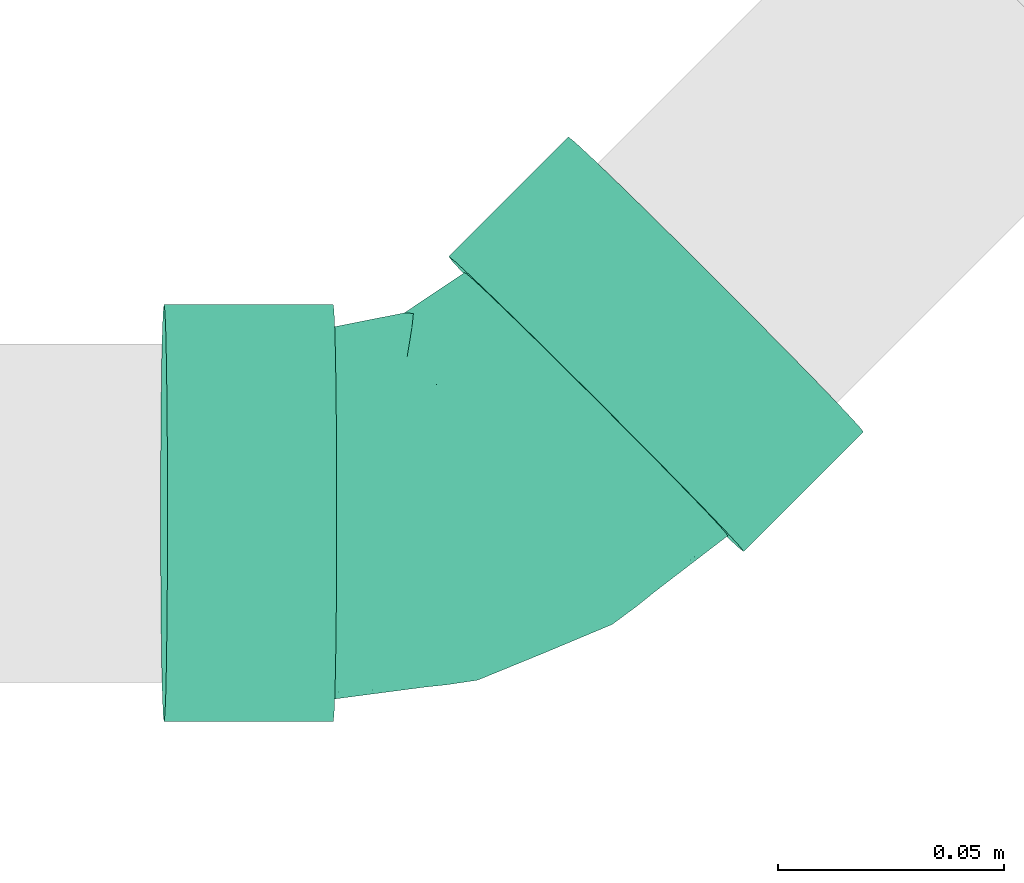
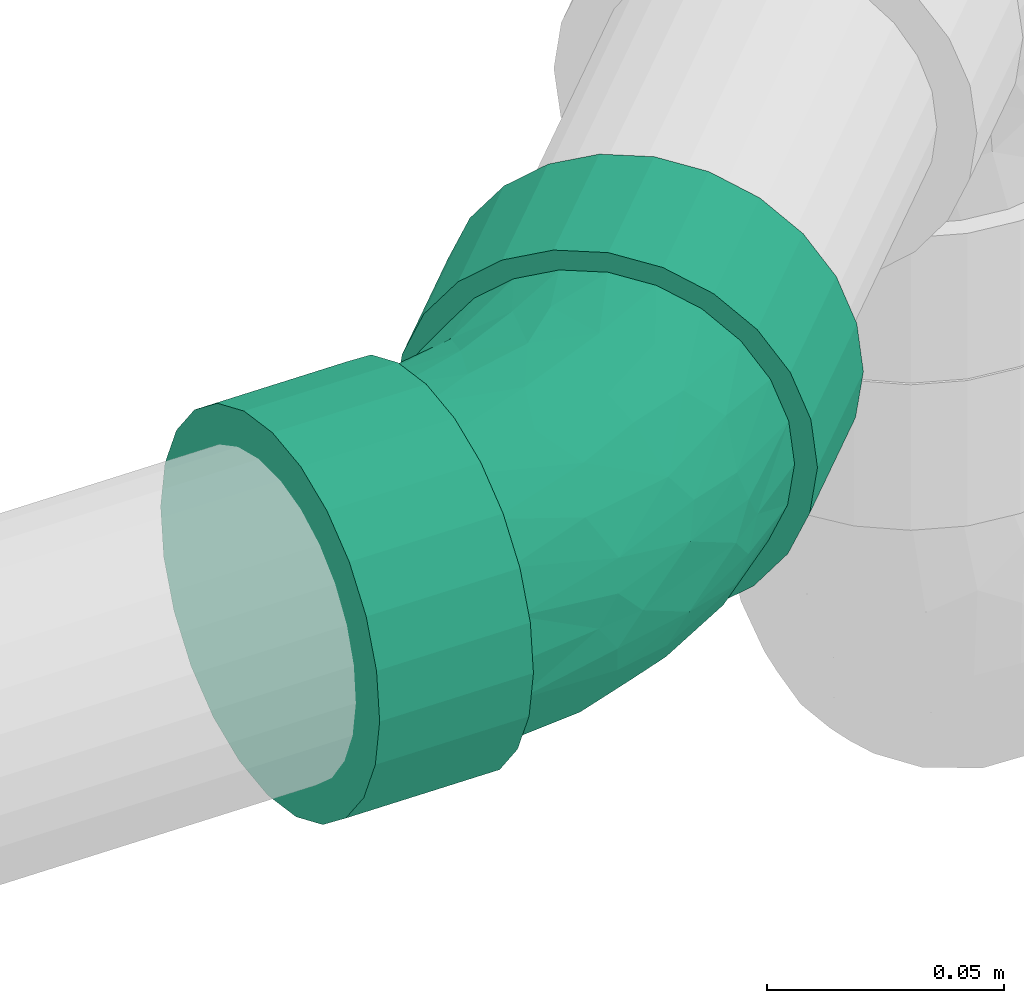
# One storey, part 55 of 83: 1 flow fitting.
"""IFC2X3 building model written with IfcOpenShell, lengths in millimetres."""

from ifc_helpers import new_model, entity, si_unit, converted_unit, derived_unit, direction, frame, origin_with_axes, place, context, subcontext, project, spatial, open_shell, surface_model, source, transform, mapped, type_object, element, save


model = new_model("IFC2X3")

# Units and contexts
model_context = context("Model", 3, precision=0.01, world=frame((0.0, 4.29681676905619e-09, 0.0)), true_north=direction((4.01073788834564e-13, 1.0)))
plan_context = context("Plan", 3, precision=0.01, world=frame((0.0, 4.29681676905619e-09, 0.0)), true_north=direction((4.01073788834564e-13, 1.0)))
body_context = subcontext(model_context, "Body", "Model", "MODEL_VIEW")
ifc_project = project(units=[converted_unit("PLANEANGLEUNIT", "DEGREE", entity("IfcPositiveLengthMeasure", 0.0174532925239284), si_unit("PLANEANGLEUNIT", "RADIAN"), dimensions=[0, 0, 0, 0, 0, 0, 0]), si_unit("AREAUNIT", "SQUARE_METRE"), si_unit("LENGTHUNIT", "METRE", prefix="MILLI"), si_unit("MASSUNIT", "GRAM", prefix="KILO"), si_unit("POWERUNIT", "WATT"), si_unit("PRESSUREUNIT", "PASCAL"), si_unit("FORCEUNIT", "NEWTON", prefix="KILO"), si_unit("ELECTRICVOLTAGEUNIT", "VOLT"), si_unit("ELECTRICCURRENTUNIT", "AMPERE"), si_unit("THERMODYNAMICTEMPERATUREUNIT", "DEGREE_CELSIUS"), si_unit("TIMEUNIT", "SECOND"), si_unit("VOLUMEUNIT", "CUBIC_METRE"), derived_unit("LINEARVELOCITYUNIT", [(si_unit("LENGTHUNIT", "METRE"), 1), (si_unit("TIMEUNIT", "SECOND"), -1)]), derived_unit("VOLUMETRICFLOWRATEUNIT", [(si_unit("VOLUMEUNIT", "CUBIC_METRE"), 1), (si_unit("TIMEUNIT", "SECOND"), -1)]), derived_unit("THERMALTRANSMITTANCEUNIT", [(si_unit("POWERUNIT", "WATT"), 1), (si_unit("THERMODYNAMICTEMPERATUREUNIT", "KELVIN"), -1), (si_unit("AREAUNIT", "SQUARE_METRE"), -1)]), derived_unit("SOUNDPRESSUREUNIT", [(si_unit("PRESSUREUNIT", "PASCAL"), 1)])], contexts=[model_context, plan_context])

# Site, building, storey
site_placement = place(None, frame((0.0, -4.29681676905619e-09, 0.0), z_axis=(0.0, 0.0, 1.0), x_axis=(1.0, 0.0, 0.0)))
site = spatial("IfcSite", under=ifc_project, at=site_placement, Name="ENGM", CompositionType="ELEMENT")
building_placement = place(site_placement, frame((0.0, 4.29681676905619e-09, 0.0), z_axis=(0.0, 0.0, 1.0), x_axis=(1.0, 0.0, 0.0)))
building = spatial("IfcBuilding", under=site, at=building_placement, Name="TI", CompositionType="ELEMENT")
storey_placement = place(building_placement, frame((0.0, 0.0, 204000.0), z_axis=(0.0, 0.0, 1.0), x_axis=(1.0, 0.0, 0.0)))
storey = spatial("IfcBuildingStorey", under=building, at=storey_placement, Name="Nivå D", CompositionType="ELEMENT", Elevation=204000.0)

# Flow fitting
pipe_fitting_type = type_object("IfcPipeFittingType", Name="magi_sewer_bend_001", PredefinedType="BEND")
shared_shape = source(origin_with_axes(), body_context, "Body", "SurfaceModel", [
    surface_model("IfcShellBasedSurfaceModel", [(12.80601, -30.92148, 8.96692), (-2.14279, -37.03455, 0.0), (12.77847, -30.85497, 0.0), (12.80601, -30.92148, -8.96692), (-71.66707, -44.67407, -11.97038), (-71.66707, -11.97038, -44.67407), (-71.66707, -23.125, -40.05367), (-71.66707, -32.70369, -32.70369), (-71.66707, 0.0, -46.25), (-71.66707, -40.05367, -23.125), (-71.66707, -46.25, 0.0), (-71.66707, 11.97038, -44.67407), (-71.66707, 32.70369, -32.70369), (-71.66707, 23.125, -40.05367), (-71.66707, 44.67407, -11.97038), (-71.66707, 40.05367, -23.125), (-71.66707, -32.70369, 32.70369), (-71.66707, -44.67407, 11.97038), (-71.66707, -40.05367, 23.125), (-71.66707, 40.05367, 23.125), (-71.66707, -23.125, 40.05367), (-71.66707, -11.97038, 44.67407), (-71.66707, 0.0, 46.25), (-71.66707, 11.97038, 44.67407), (-71.66707, 44.67407, 11.97038), (-71.66707, 46.25, 0.0), (-71.66707, 23.125, 40.05367), (-71.66707, 32.70369, 32.70369), (-34.16707, 0.0, 46.25), (-34.16707, -11.97038, 44.67407), (-34.16707, -23.125, 40.05367), (-34.16707, -32.70369, 32.70369), (-34.16707, -40.05367, 23.125), (-34.16707, -44.67407, 11.97038), (-34.16707, 40.05367, 23.125), (-34.16707, -44.67407, -11.97038), (-34.16707, 23.125, 40.05367), (-34.16707, 32.70369, 32.70369), (-34.16707, 11.97038, 44.67407), (-34.16707, 44.67407, 11.97038), (-34.16707, 44.67407, -11.97038), (-34.16707, 46.25, 0.0), (-34.16707, -32.70369, -32.70369), (-34.16707, -40.05367, -23.125), (-34.16707, -23.125, -40.05367), (-34.16707, -11.97038, -44.67407), (-34.16707, 11.97038, -44.67407), (-34.16707, 32.70369, -32.70369), (-34.16707, 40.05367, -23.125), (-34.16707, 23.125, -40.05367), (-34.16707, 0.0, -46.25), (-34.16707, -46.25, 0.0), (27.55974, 73.79811, -32.70369), (42.21873, 59.13576, -44.67407), (34.33212, 67.02417, -40.05367), (59.14545, 42.20515, 44.67407), (67.03205, 34.31673, 40.05367), (73.80443, 27.5428, 32.70369), (67.03205, 34.31673, -40.05367), (79.00106, 22.34498, -23.125), (73.80443, 27.5428, -32.70369), (55.74825, -7.43597, -11.97038), (56.86248, -8.55045, 0.0), (55.74825, -7.43597, 11.97038), (52.48152, -4.16848, 23.125), (47.28489, 1.02934, 32.70369), (40.51251, 7.80327, 40.05367), (32.62591, 15.69169, 44.67407), (32.62591, 15.69169, -44.67407), (15.69918, 32.6223, -44.67407), (24.16254, 24.15699, -46.25), (40.51251, 7.80327, -40.05367), (15.69918, 32.6223, 44.67407), (1.0402, 47.28465, 32.70369), (7.81257, 40.51072, 40.05367), (-4.15643, 52.48246, 23.125), (-7.42316, 55.74995, 11.97038), (1.0402, 47.28465, -32.70369), (7.81257, 40.51072, -40.05367), (-7.42316, 55.74995, -11.97038), (-4.15643, 52.48246, -23.125), (-8.53739, 56.86443, 0.0), (24.16254, 24.15699, 46.25), (22.36312, 78.99593, -23.125), (19.09638, 82.26342, -11.97038), (50.68209, 50.67045, -46.25), (17.98216, 83.3779, 0.0), (19.09638, 82.26342, 11.97038), (34.33212, 67.02417, 40.05367), (27.55974, 73.79811, 32.70369), (42.21873, 59.13576, 44.67407), (22.36312, 78.99593, 23.125), (50.68209, 50.67045, 46.25), (79.00106, 22.34498, 23.125), (82.2678, 19.07749, 11.97038), (83.38202, 17.96301, 0.0), (47.28489, 1.02934, -32.70369), (52.48152, -4.16848, -23.125), (59.14545, 42.20515, -44.67407), (82.2678, 19.07749, -11.97038), (-34.16707, 10.67629, -39.84444), (-34.16707, 0.0, -41.25), (-34.16707, 35.72355, -20.625), (-34.16707, 20.625, -35.72355), (-34.16707, -10.67629, -39.84444), (-34.16707, 29.16816, -29.16816), (-34.16707, 39.84444, -10.67629), (-34.16707, -29.16816, -29.16816), (-34.16707, -35.72355, -20.625), (-34.16707, -20.625, -35.72355), (-34.16707, -39.84444, -10.67629), (-34.16707, -41.25, 0.0), (-34.16707, -39.84444, 10.67629), (-34.16707, 41.25, 0.0), (-34.16707, 35.72355, 20.625), (-34.16707, 39.84444, 10.67629), (-34.16707, 10.67629, 39.84444), (-34.16707, 20.625, 35.72355), (-34.16707, 29.16816, 29.16816), (-34.16707, -35.72355, 20.625), (-34.16707, -29.16816, 29.16816), (-34.16707, -10.67629, 39.84444), (-34.16707, -20.625, 35.72355), (-34.16707, 0.0, 41.25), (38.74495, 9.57124, -35.72355), (49.42, -1.10627, -20.625), (44.78518, 3.52963, -29.16816), (31.71095, 16.60685, -39.84444), (24.16254, 24.15699, -41.25), (52.33358, -4.02051, -10.67629), (52.33358, -4.02051, 10.67629), (53.32735, -5.01451, 0.0), (-5.00226, 53.3285, 0.0), (-4.00849, 52.33449, 10.67629), (-1.09492, 49.42026, 20.625), (3.53991, 44.78436, 29.16816), (9.58014, 38.74275, 35.72355), (16.61413, 31.70714, 39.84444), (44.78518, 3.52963, 29.16816), (49.42, -1.10627, 20.625), (-13.7768, -38.56596, 0.0), (-8.80119, -38.00326, 7.04424), (31.72175, -12.89659, 24.15362), (-16.34242, -15.1263, 37.70052), (-12.30731, -3.97177, 40.70356), (-3.92229, 9.47079, 41.105), (-20.66516, 5.7159, 40.99964), (-11.71485, 28.28675, 33.67645), (-18.18584, 34.59425, 26.03138), (38.74495, 9.57124, 35.72355), (31.71095, 16.60685, 39.84444), (22.25185, 0.85737, 37.70052), (-15.8449, 17.16523, 38.56285), (15.91577, -27.00123, 16.25786), (-7.39337, -35.68797, 14.32543), (-13.31503, -31.5484, 24.15362), (-16.99004, 41.02424, 16.94694), (33.09338, -20.65278, 7.04424), (37.00991, -17.53284, 0.0), (30.46081, -20.01079, 14.32542), (24.16254, 24.15699, 41.25), (7.45593, 19.52294, 40.64982), (11.51172, 5.8928, 40.70356), (22.93485, -10.03734, 31.83032), (10.50531, -25.3662, 22.98801), (27.69973, -24.67538, 0.0), (-12.30731, -3.97177, -40.70356), (11.51172, 5.8928, -40.70356), (-11.59821, 37.32248, -26.03138), (22.93485, -10.03734, -31.83032), (30.46081, -20.01079, -14.32542), (9.58014, 38.74275, -35.72355), (16.61413, 31.70714, -39.84444), (-0.93093, 23.34179, -38.56285), (-7.39337, -35.68797, -14.32542), (-13.31503, -31.5484, -24.15362), (-16.34242, -15.1263, -37.70052), (22.25185, 0.85737, -37.70052), (4.23545, -10.22694, -37.18093), (-18.38357, 44.38906, 0.0), (-19.56635, 42.93748, -8.66693), (-4.00849, 52.33449, -10.67629), (-19.07597, 8.53486, -40.64982), (33.09338, -20.65278, -7.04424), (10.57287, 18.65302, -40.99964), (31.72175, -12.89659, -24.15362), (-3.92229, 9.47079, -41.105), (10.50531, -25.3662, -22.98801), (6.92293, -16.71615, -32.89587), (-1.09492, 49.42026, -20.625), (3.53991, 44.78436, -29.16816), (-9.12259, -23.31381, 31.83032), (4.23545, -10.22692, 37.18093), (1.22633, 24.79686, 38.50086), (-16.52082, 44.19879, 8.66693), (6.92294, -16.71615, 32.89586), (-8.8012, -38.00326, -7.04424), (-18.39928, 16.66898, -38.50086), (-16.99004, 41.02424, -16.94694), (-9.12259, -23.31381, -31.83032), (7.83511, -30.3478, -16.25785), (-11.71486, 28.28675, -33.67645)], [open_shell([[[0, 1, 2]], [[1, 3, 2]], [[4, 5, 6]], [[4, 6, 7]], [[5, 4, 8]], [[4, 7, 9]], [[8, 4, 10]], [[11, 12, 13]], [[12, 11, 8]], [[12, 14, 15]], [[14, 12, 8]], [[8, 10, 14]], [[10, 16, 14]], [[17, 18, 16]], [[14, 16, 19]], [[20, 21, 22]], [[20, 22, 16]], [[23, 16, 22]], [[14, 24, 25]], [[19, 24, 14]], [[19, 26, 27]], [[26, 19, 23]], [[16, 23, 19]], [[10, 17, 16]], [[28, 29, 30]], [[28, 30, 31]], [[31, 32, 33]], [[28, 31, 34]], [[31, 35, 34]], [[36, 34, 37]], [[34, 36, 38]], [[39, 40, 41]], [[34, 38, 28]], [[39, 34, 40]], [[31, 33, 35]], [[40, 34, 35]], [[42, 35, 43]], [[44, 45, 35]], [[44, 35, 42]], [[46, 35, 45]], [[40, 47, 48]], [[40, 35, 47]], [[47, 46, 49]], [[35, 46, 47]], [[45, 50, 46]], [[35, 33, 51]], [[40, 14, 41]], [[48, 15, 40]], [[13, 47, 49]], [[48, 47, 12]], [[11, 49, 46]], [[40, 15, 14]], [[14, 25, 41]], [[11, 13, 49]], [[12, 47, 13]], [[12, 15, 48]], [[8, 11, 46]], [[46, 50, 8]], [[50, 45, 5]], [[9, 43, 35]], [[43, 7, 42]], [[4, 35, 51]], [[5, 44, 6]], [[44, 5, 45]], [[44, 42, 6]], [[42, 7, 6]], [[43, 9, 7]], [[4, 9, 35]], [[51, 10, 4]], [[50, 5, 8]], [[33, 17, 51]], [[32, 18, 33]], [[20, 31, 30]], [[32, 31, 16]], [[21, 30, 29]], [[33, 18, 17]], [[17, 10, 51]], [[21, 20, 30]], [[16, 31, 20]], [[16, 18, 32]], [[22, 21, 29]], [[29, 28, 22]], [[37, 26, 36]], [[39, 19, 34]], [[37, 34, 27]], [[24, 39, 41]], [[36, 23, 38]], [[36, 26, 23]], [[23, 22, 38]], [[37, 27, 26]], [[34, 19, 27]], [[24, 19, 39]], [[41, 25, 24]], [[38, 22, 28]], [[52, 53, 54]], [[55, 56, 57]], [[58, 59, 60]], [[61, 62, 63]], [[64, 61, 63]], [[65, 66, 67]], [[61, 64, 65]], [[68, 69, 70]], [[69, 71, 72]], [[73, 72, 74]], [[73, 75, 76]], [[73, 76, 72]], [[69, 77, 78]], [[77, 79, 80]], [[76, 81, 79]], [[72, 67, 82]], [[69, 53, 70]], [[78, 54, 69]], [[83, 77, 80]], [[78, 77, 52]], [[84, 80, 79]], [[69, 54, 53]], [[53, 85, 70]], [[84, 83, 80]], [[52, 77, 83]], [[52, 54, 78]], [[86, 84, 79]], [[79, 81, 86]], [[81, 76, 87]], [[88, 74, 72]], [[74, 89, 73]], [[90, 72, 82]], [[87, 75, 91]], [[75, 87, 76]], [[75, 73, 91]], [[73, 89, 91]], [[74, 88, 89]], [[90, 88, 72]], [[82, 92, 90]], [[81, 87, 86]], [[67, 55, 82]], [[66, 56, 67]], [[93, 65, 64]], [[66, 65, 57]], [[94, 64, 63]], [[67, 56, 55]], [[55, 92, 82]], [[94, 93, 64]], [[57, 65, 93]], [[57, 56, 66]], [[95, 94, 63]], [[63, 62, 95]], [[96, 59, 97]], [[68, 58, 71]], [[96, 71, 60]], [[98, 68, 70]], [[97, 99, 61]], [[97, 59, 99]], [[99, 95, 61]], [[96, 60, 59]], [[71, 58, 60]], [[98, 58, 68]], [[70, 85, 98]], [[61, 95, 62]], [[100, 101, 102]], [[103, 100, 102]], [[104, 102, 101]], [[105, 103, 102]], [[106, 102, 104]], [[107, 108, 109]], [[104, 109, 108]], [[108, 110, 104]], [[110, 106, 104]], [[111, 112, 110]], [[113, 106, 110]], [[114, 115, 113]], [[112, 114, 110]], [[116, 117, 118]], [[112, 118, 114]], [[118, 112, 116]], [[119, 120, 112]], [[121, 112, 120]], [[122, 121, 120]], [[121, 116, 112]], [[121, 123, 116]], [[113, 110, 114]], [[124, 125, 126]], [[124, 127, 128]], [[129, 130, 131]], [[132, 133, 134]], [[135, 136, 137]], [[130, 138, 139]], [[140, 1, 141]], [[139, 138, 142]], [[121, 122, 143]], [[144, 145, 146]], [[123, 121, 144]], [[118, 147, 148]], [[149, 150, 151]], [[146, 116, 123]], [[117, 152, 147]], [[112, 140, 141]], [[136, 135, 147]], [[153, 154, 0]], [[147, 118, 117]], [[120, 119, 155]], [[114, 148, 156]], [[115, 114, 156]], [[130, 157, 158]], [[159, 153, 0]], [[154, 141, 0]], [[117, 116, 152]], [[160, 161, 162]], [[138, 149, 163]], [[134, 133, 156]], [[162, 150, 160]], [[164, 155, 154]], [[138, 163, 142]], [[163, 149, 151]], [[119, 154, 155]], [[157, 130, 159]], [[164, 142, 163]], [[146, 152, 116]], [[164, 153, 142]], [[119, 112, 154]], [[134, 156, 148]], [[134, 148, 135]], [[145, 144, 162]], [[143, 144, 121]], [[114, 118, 148]], [[159, 130, 139]], [[159, 139, 142]], [[135, 148, 147]], [[162, 151, 150]], [[112, 111, 140]], [[112, 141, 154]], [[1, 0, 141]], [[157, 0, 165]], [[158, 157, 165]], [[158, 131, 130]], [[0, 157, 159]], [[162, 161, 145]], [[160, 137, 161]], [[144, 146, 123]], [[152, 146, 145]], [[142, 153, 159]], [[154, 153, 164]], [[165, 0, 2]], [[104, 101, 166]], [[128, 127, 167]], [[102, 168, 105]], [[124, 126, 169]], [[125, 129, 170]], [[171, 172, 173]], [[174, 108, 175]], [[110, 108, 174]], [[107, 175, 108]], [[176, 109, 104]], [[177, 167, 127]], [[178, 176, 166]], [[113, 179, 180]], [[132, 181, 180]], [[178, 166, 167]], [[182, 166, 101]], [[129, 158, 183]], [[184, 172, 128]], [[177, 127, 124]], [[126, 185, 169]], [[178, 177, 169]], [[126, 125, 185]], [[186, 184, 167]], [[185, 187, 169]], [[186, 167, 166]], [[183, 158, 165]], [[184, 173, 172]], [[169, 188, 178]], [[125, 170, 185]], [[187, 185, 170]], [[189, 190, 168]], [[166, 176, 104]], [[169, 177, 124]], [[167, 177, 178]], [[140, 111, 110]], [[183, 3, 170]], [[3, 165, 2]], [[129, 131, 158]], [[3, 183, 165]], [[129, 183, 170]], [[166, 182, 186]], [[101, 100, 182]], [[167, 184, 128]], [[173, 184, 186]], [[187, 188, 169]], [[113, 180, 106]], [[180, 179, 132]], [[84, 86, 87]], [[72, 65, 67]], [[69, 72, 77]], [[189, 172, 171]], [[189, 171, 190]], [[135, 137, 134]], [[164, 191, 155]], [[122, 120, 191]], [[143, 191, 192]], [[155, 191, 120]], [[137, 193, 161]], [[194, 113, 115]], [[145, 161, 193]], [[179, 194, 132]], [[191, 195, 192]], [[192, 162, 144]], [[192, 151, 162]], [[137, 136, 193]], [[193, 147, 152]], [[195, 164, 163]], [[147, 193, 136]], [[145, 193, 152]], [[191, 143, 122]], [[144, 143, 192]], [[163, 151, 192]], [[164, 195, 191]], [[163, 192, 195]], [[194, 179, 113]], [[1, 196, 3]], [[197, 182, 100]], [[198, 168, 102]], [[106, 180, 198]], [[110, 196, 140]], [[103, 197, 100]], [[196, 110, 174]], [[175, 107, 199]], [[107, 109, 199]], [[188, 187, 199]], [[187, 175, 199]], [[198, 102, 106]], [[189, 168, 198]], [[176, 199, 109]], [[200, 170, 3]], [[186, 182, 197]], [[196, 174, 3]], [[187, 200, 175]], [[186, 197, 173]], [[199, 176, 178]], [[140, 196, 1]], [[200, 3, 174]], [[199, 178, 188]], [[175, 200, 174]], [[170, 200, 187]], [[84, 87, 91]], [[89, 84, 91]], [[84, 89, 90]], [[90, 89, 88]], [[85, 53, 90]], [[84, 52, 83]], [[53, 52, 84]], [[90, 53, 84]], [[90, 92, 85]], [[92, 57, 85]], [[99, 93, 94]], [[59, 57, 93]], [[95, 99, 94]], [[57, 58, 98]], [[98, 85, 57]], [[59, 58, 57]], [[93, 99, 59]], [[57, 92, 55]], [[72, 61, 65]], [[97, 71, 96]], [[71, 97, 61]], [[71, 69, 68]], [[72, 71, 61]], [[79, 72, 76]], [[72, 79, 77]], [[172, 125, 128]], [[125, 172, 189]], [[125, 189, 181]], [[125, 124, 128]], [[181, 129, 125]], [[129, 181, 132]], [[129, 134, 138]], [[150, 134, 137]], [[129, 138, 130]], [[138, 150, 149]], [[134, 150, 138]], [[137, 160, 150]], [[129, 132, 134]], [[115, 156, 194]], [[133, 194, 156]], [[132, 194, 133]], [[190, 201, 168]], [[181, 189, 198]], [[190, 171, 201]], [[173, 201, 171]], [[201, 173, 197]], [[105, 201, 103]], [[181, 198, 180]], [[105, 168, 201]], [[201, 197, 103]]])]),
])
flow_fitting_placement = place(storey_placement, frame((601539.60286, 693473.102, 6301.57230999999), z_axis=(0.016663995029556, 0.00684699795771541, 0.999837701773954), x_axis=(0.999861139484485, -2.62426220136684e-09, -0.016664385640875)))
element("IfcFlowFitting", 1, at=flow_fitting_placement, inside=storey, type_object=pipe_fitting_type, Name="magi_sewer_bend_001", context=body_context, shape_type="MappedRepresentation", body=[
    mapped(shared_shape, transform((0.0, 0.0, 0.0), scale=1.0)),
])

save(model, "model.ifc")
